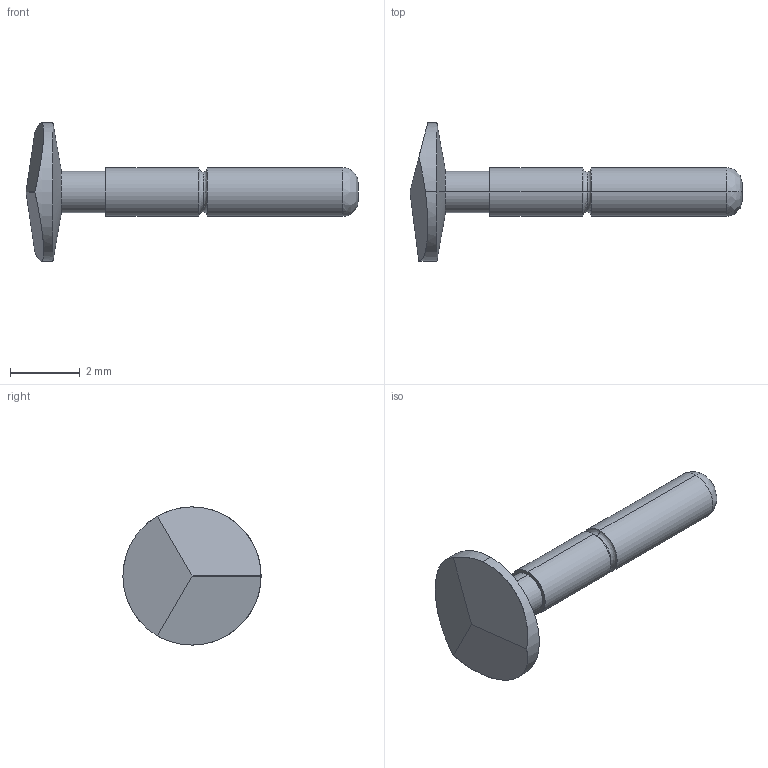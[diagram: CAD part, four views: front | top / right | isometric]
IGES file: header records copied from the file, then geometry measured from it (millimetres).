
Start section: SolidWorks IGES file using analytic representation for surfaces
Global section: file name: Z:\probe solid model mockups\Solidworks models\IGES Files\HPA-64\HPA-64-7.IGS; native system: SolidWorks 2006 by SolidWorks Corporation; preprocessor: SolidWorks 2006 by SolidWorks Corporation; author: tsakatani; date: 071220.100313; units: inch
Bounding box: 9.53 x 3.96 x 3.96 mm (x, y, z)
Surface area: 66.5 mm2 (no closed solid volume)
Topology: 0 solids, 0 shells, 21 faces, 162 edges, 162 vertices
Faces by surface type: bspline 11, revolution 10
